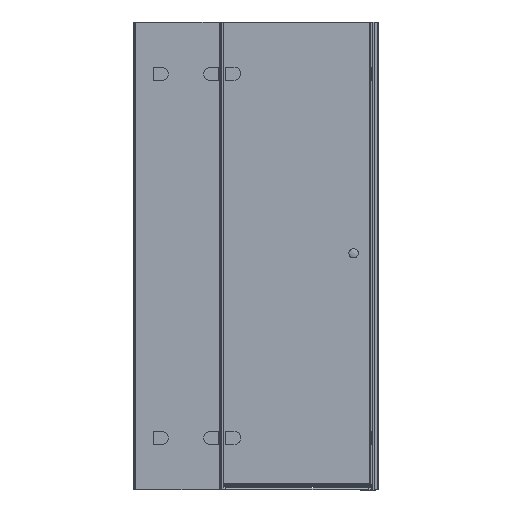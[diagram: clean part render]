
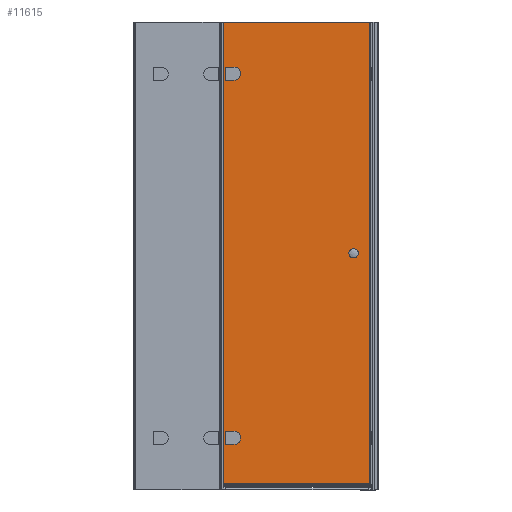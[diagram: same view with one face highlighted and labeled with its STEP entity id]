
A CAD part, left-side view. The second image highlights one B-rep face of the part: STEP entity #11615.
In plain terms, the highlighted planar face has unit normal (-1, 0, 0).
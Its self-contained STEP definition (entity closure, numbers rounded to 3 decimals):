
#303=LINE($,#16868,#1532);
#307=LINE($,#16876,#1536);
#311=LINE($,#16887,#1540);
#453=LINE($,#17252,#1682);
#457=LINE($,#17260,#1686);
#461=LINE($,#17271,#1690);
#568=LINE($,#17687,#1797);
#623=LINE($,#17924,#1852);
#624=LINE($,#17926,#1853);
#625=LINE($,#17927,#1854);
#1532=VECTOR($,#13665,52.);
#1536=VECTOR($,#13671,23.);
#1540=VECTOR($,#13683,23.);
#1682=VECTOR($,#14037,52.);
#1686=VECTOR($,#14043,23.);
#1690=VECTOR($,#14055,23.);
#1797=VECTOR($,#14334,600.);
#1852=VECTOR($,#14523,1875.4);
#1853=VECTOR($,#14524,600.);
#1854=VECTOR($,#14525,1875.4);
#2575=FACE_BOUND($,#3716,.T.);
#2576=FACE_BOUND($,#3717,.T.);
#2577=FACE_BOUND($,#3718,.T.);
#3716=EDGE_LOOP($,(#8392,#8393,#8394,#8395));
#3717=EDGE_LOOP($,(#8396,#8397,#8398,#8399));
#3718=EDGE_LOOP($,(#8400,#8401,#8402,#8403));
#4177=CIRCLE($,#12205,26.);
#4213=CIRCLE($,#12316,26.);
#4650=VERTEX_POINT($,#16866);
#4651=VERTEX_POINT($,#16867);
#4654=VERTEX_POINT($,#16875);
#4656=VERTEX_POINT($,#16881);
#4773=VERTEX_POINT($,#17250);
#4774=VERTEX_POINT($,#17251);
#4777=VERTEX_POINT($,#17259);
#4779=VERTEX_POINT($,#17265);
#4906=VERTEX_POINT($,#17673);
#4907=VERTEX_POINT($,#17686);
#4968=VERTEX_POINT($,#17923);
#4969=VERTEX_POINT($,#17925);
#5748=EDGE_CURVE($,#4650,#4651,#303,.T.);
#5752=EDGE_CURVE($,#4651,#4654,#307,.T.);
#5755=EDGE_CURVE($,#4654,#4656,#4177,.T.);
#5758=EDGE_CURVE($,#4656,#4650,#311,.T.);
#5934=EDGE_CURVE($,#4773,#4774,#453,.T.);
#5938=EDGE_CURVE($,#4774,#4777,#457,.T.);
#5941=EDGE_CURVE($,#4777,#4779,#4213,.T.);
#5944=EDGE_CURVE($,#4779,#4773,#461,.T.);
#6106=EDGE_CURVE($,#4906,#4907,#568,.T.);
#6199=EDGE_CURVE($,#4906,#4968,#623,.T.);
#6200=EDGE_CURVE($,#4969,#4968,#624,.T.);
#6201=EDGE_CURVE($,#4907,#4969,#625,.T.);
#8392=ORIENTED_EDGE($,*,*,#5748,.T.);
#8393=ORIENTED_EDGE($,*,*,#5752,.T.);
#8394=ORIENTED_EDGE($,*,*,#5755,.T.);
#8395=ORIENTED_EDGE($,*,*,#5758,.T.);
#8396=ORIENTED_EDGE($,*,*,#5934,.T.);
#8397=ORIENTED_EDGE($,*,*,#5938,.T.);
#8398=ORIENTED_EDGE($,*,*,#5941,.T.);
#8399=ORIENTED_EDGE($,*,*,#5944,.T.);
#8400=ORIENTED_EDGE($,*,*,#6106,.F.);
#8401=ORIENTED_EDGE($,*,*,#6199,.T.);
#8402=ORIENTED_EDGE($,*,*,#6200,.F.);
#8403=ORIENTED_EDGE($,*,*,#6201,.F.);
#10388=PLANE($,#12471);
#11615=ADVANCED_FACE($,(#2575,#2576,#2577),#10388,.T.);
#12205=AXIS2_PLACEMENT_3D($,#16882,#13676,#13677);
#12316=AXIS2_PLACEMENT_3D($,#17266,#14048,#14049);
#12471=AXIS2_PLACEMENT_3D($,#17922,#14521,#14522);
#13665=DIRECTION($,(0.,0.,1.));
#13671=DIRECTION($,(0.,-1.,0.));
#13676=DIRECTION('center_axis',(1.,0.,0.));
#13677=DIRECTION('ref_axis',(0.,0.,
-1.));
#13683=DIRECTION($,(0.,1.,0.));
#14037=DIRECTION($,(0.,0.,1.));
#14043=DIRECTION($,(0.,-1.,0.));
#14048=DIRECTION('center_axis',(1.,0.,0.));
#14049=DIRECTION('ref_axis',(0.,0.,
-1.));
#14055=DIRECTION($,(0.,1.,0.));
#14334=DIRECTION($,(0.,1.,0.));
#14521=DIRECTION('center_axis',(-1.,0.,0.));
#14522=DIRECTION('ref_axis',(0.,-1.,0.));
#14523=DIRECTION($,(0.,0.,1.));
#14524=DIRECTION($,(0.,-1.,0.));
#14525=DIRECTION($,(0.,0.,1.));
#16866=CARTESIAN_POINT('',(1185.733,449.956,1150.944));
#16867=CARTESIAN_POINT('',(1185.733,449.956,1202.944));
#16868=CARTESIAN_POINT($,(1185.733,449.956,354.944));
#16875=CARTESIAN_POINT('',(1185.733,426.956,1202.944));
#16876=CARTESIAN_POINT($,(1185.733,448.956,1202.944));
#16881=CARTESIAN_POINT('',(1185.733,426.956,1150.944));
#16882=CARTESIAN_POINT('Origin',(1185.733,426.956,1176.944));
#16887=CARTESIAN_POINT($,(1185.733,460.456,1150.944));
#17250=CARTESIAN_POINT('',(1185.733,449.956,-329.056));
#17251=CARTESIAN_POINT('',(1185.733,449.956,-277.056));
#17252=CARTESIAN_POINT($,(1185.733,449.956,-385.056));
#17259=CARTESIAN_POINT('',(1185.733,426.956,-277.056));
#17260=CARTESIAN_POINT($,(1185.733,448.956,-277.056));
#17265=CARTESIAN_POINT('',(1185.733,426.956,-329.056));
#17266=CARTESIAN_POINT('Origin',(1185.733,426.956,-303.056));
#17271=CARTESIAN_POINT($,(1185.733,460.456,-329.056));
#17673=CARTESIAN_POINT('',(1185.733,-129.044,-488.456));
#17686=CARTESIAN_POINT('',(1185.733,470.956,-488.456));
#17687=CARTESIAN_POINT($,(1185.733,-139.044,-488.456));
#17922=CARTESIAN_POINT('Origin',(1185.733,470.956,-493.056));
#17923=CARTESIAN_POINT('',(1185.733,-129.044,1386.944));
#17924=CARTESIAN_POINT($,(1185.733,-129.044,-493.056));
#17925=CARTESIAN_POINT('',(1185.733,470.956,1386.944));
#17926=CARTESIAN_POINT($,(1185.733,470.956,1386.944));
#17927=CARTESIAN_POINT($,(1185.733,470.956,-493.056));
